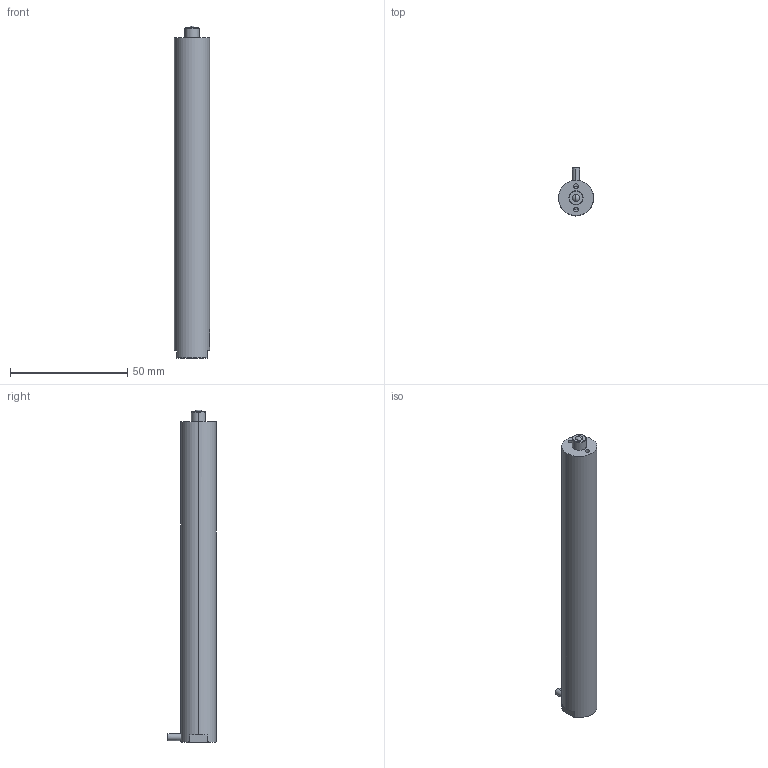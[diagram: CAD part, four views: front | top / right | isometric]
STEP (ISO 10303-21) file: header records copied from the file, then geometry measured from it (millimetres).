
FILE_DESCRIPTION (( 'STEP AP203' ), '1' );
FILE_NAME ('140VS15球头.STEP', '2024-11-30T07:39:50', ( 'daohangxitong.com' ), ( 'daohangxitong.com' ), 'SwSTEP 2.0', 'SolidWorks 2016', '' );
FILE_SCHEMA (( 'CONFIG_CONTROL_DESIGN' ));
Length unit declared in the file: millimetre
Products named in the file (1): 140VS15球头
Bounding box: 15 x 20.5 x 141.6 mm (x, y, z)
Volume: 24214 mm3; surface area: 6986.4 mm2
Topology: 1 solids, 1 shells, 776 faces, 2223 edges, 1476 vertices
Faces by surface type: bspline 677, cylinder 44, plane 41, cone 12, sphere 2
Entity records: 41928 total; most frequent: CARTESIAN_POINT 27669, ORIENTED_EDGE 4434, EDGE_CURVE 2217, B_SPLINE_CURVE_WITH_KNOTS 2079, VERTEX_POINT 1476, EDGE_LOOP 809, ADVANCED_FACE 776, FACE_OUTER_BOUND 776
